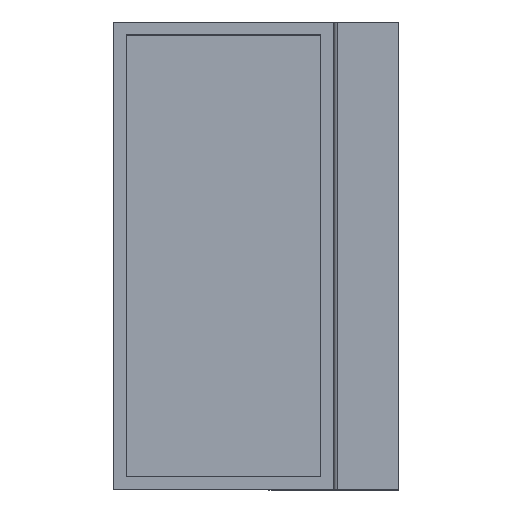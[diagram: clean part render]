
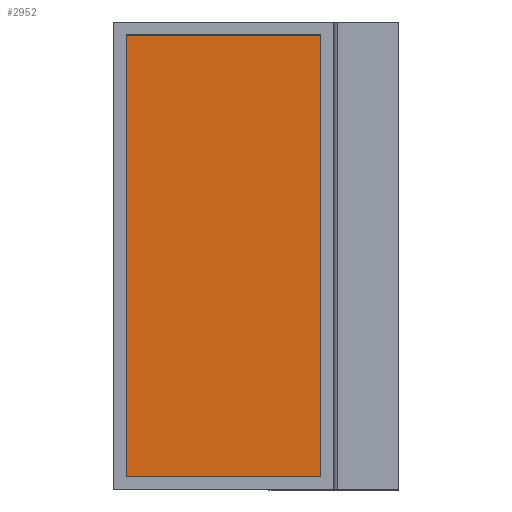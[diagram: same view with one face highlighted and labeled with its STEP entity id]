
A CAD part, top view. The second image highlights one B-rep face of the part: STEP entity #2952.
In plain terms, the highlighted planar face has unit normal (0, 0, 1).
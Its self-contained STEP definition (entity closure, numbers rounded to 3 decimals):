
#186=PLANE('',#3158);
#213=FACE_OUTER_BOUND('',#401,.T.);
#401=EDGE_LOOP('',(#1937,#1938,#1939,#1940));
#602=LINE('',#4568,#735);
#606=LINE('',#4575,#739);
#609=LINE('',#4581,#742);
#611=LINE('',#4584,#744);
#735=VECTOR('',#3596,10.);
#739=VECTOR('',#3602,10.);
#742=VECTOR('',#3607,10.);
#744=VECTOR('',#3611,10.);
#1134=VERTEX_POINT('',#4565);
#1135=VERTEX_POINT('',#4567);
#1137=VERTEX_POINT('',#4573);
#1139=VERTEX_POINT('',#4579);
#1437=EDGE_CURVE('',#1134,#1135,#602,.T.);
#1441=EDGE_CURVE('',#1137,#1134,#606,.T.);
#1444=EDGE_CURVE('',#1139,#1137,#609,.T.);
#1446=EDGE_CURVE('',#1135,#1139,#611,.T.);
#1937=ORIENTED_EDGE('',*,*,#1446,.F.);
#1938=ORIENTED_EDGE('',*,*,#1437,.F.);
#1939=ORIENTED_EDGE('',*,*,#1441,.F.);
#1940=ORIENTED_EDGE('',*,*,#1444,.F.);
#2952=ADVANCED_FACE('',(#213),#186,.F.);
#3158=AXIS2_PLACEMENT_3D('',#4585,#3612,#3613);
#3596=DIRECTION('',(0.,-1.,0.));
#3602=DIRECTION('',(1.,0.,0.));
#3607=DIRECTION('',(0.,1.,0.));
#3611=DIRECTION('',(-1.,0.,0.));
#3612=DIRECTION('center_axis',(0.,0.,-1.));
#3613=DIRECTION('ref_axis',(-1.,0.,0.));
#4565=CARTESIAN_POINT('',(95.196,180.5,-3.));
#4567=CARTESIAN_POINT('',(95.196,10.5,-3.));
#4568=CARTESIAN_POINT('',(95.196,180.5,-3.));
#4573=CARTESIAN_POINT('',(20.196,180.5,-3.));
#4575=CARTESIAN_POINT('',(20.196,180.5,-3.));
#4579=CARTESIAN_POINT('',(20.196,10.5,-3.));
#4581=CARTESIAN_POINT('',(20.196,10.5,-3.));
#4584=CARTESIAN_POINT('',(95.196,10.5,-3.));
#4585=CARTESIAN_POINT('Origin',(57.696,95.5,-3.));
